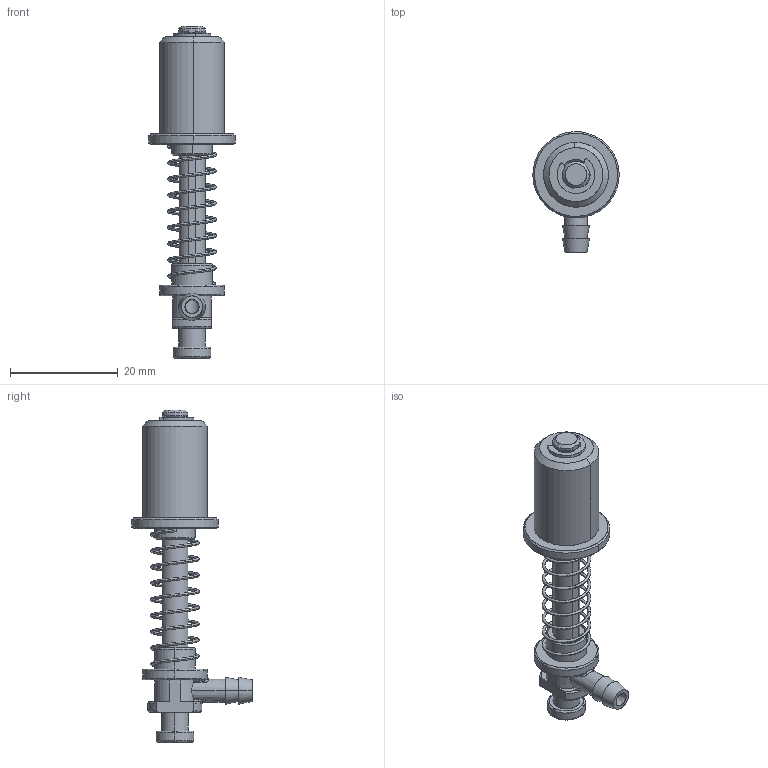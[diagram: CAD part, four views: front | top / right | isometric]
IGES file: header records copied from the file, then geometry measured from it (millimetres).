
Start section: SolidWorks IGES file using analytic representation for surfaces
Global section: file name: C:\Users\STAR056C\Desktop\1080_h-yashiro\図面データ\211107\211107.IGS; native system: SolidWorks 2018; preprocessor: SolidWorks 2018; author: STAR056C; date: 200616.112450; units: millimetre
Bounding box: 15.98 x 22.29 x 61.5 mm (x, y, z)
Surface area: 3646.5 mm2 (no closed solid volume)
Topology: 0 solids, 0 shells, 142 faces, 2073 edges, 2073 vertices
Faces by surface type: revolution 74, bspline 68
